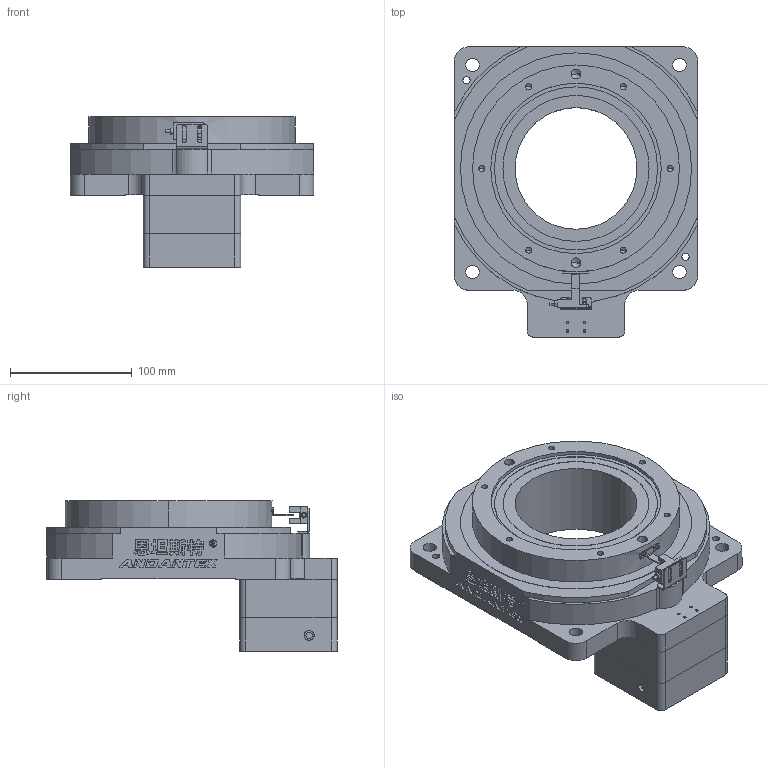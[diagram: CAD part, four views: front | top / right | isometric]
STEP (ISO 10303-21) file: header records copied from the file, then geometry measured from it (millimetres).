
FILE_DESCRIPTION(('Open CASCADE Model'),'2;1');
FILE_NAME('Open CASCADE Shape Model','2026-10-11T02:45:48',('Author'),( 'Open CASCADE'),'Open CASCADE STEP processor 7.8','Open CASCADE 7.8' ,'Unknown');
FILE_SCHEMA(('AUTOMOTIVE_DESIGN { 1 0 10303 214 1 1 1 1 }'));
Length unit declared in the file: millimetre
Products named in the file (3): NT200-18(配伺服750W 输入19-46.8 70-6 4-M5-90); NT200-18(配伺服750W 输入19-46.8 70-6 4-M5-90)-01; NT200-18(配伺服750W 输入19-46.8 70-6 4-M5-90)-02
Assembly tree (2 placements, depth 2):
  NT200-18(配伺服750W 输入19-46.8 70-6 4-M5-90)
    NT200-18(配伺服750W 输入19-46.8 70-6 4-M5-90)-01
    NT200-18(配伺服750W 输入19-46.8 70-6 4-M5-90)-02
Bounding box: 200 x 238.5 x 123.5 mm (x, y, z)
Volume: 1911576.5 mm3; surface area: 202047.6 mm2
Topology: 6 solids, 6 shells, 947 faces, 2623 edges, 1716 vertices
Faces by surface type: plane 747, cylinder 160, cone 40
Entity records: 63129 total; most frequent: CARTESIAN_POINT 13203, DIRECTION 8590, LINE 5951, VECTOR 5951, ORIENTED_EDGE 5174, PCURVE 5174, DEFINITIONAL_REPRESENTATION 5174, EDGE_CURVE 2587
